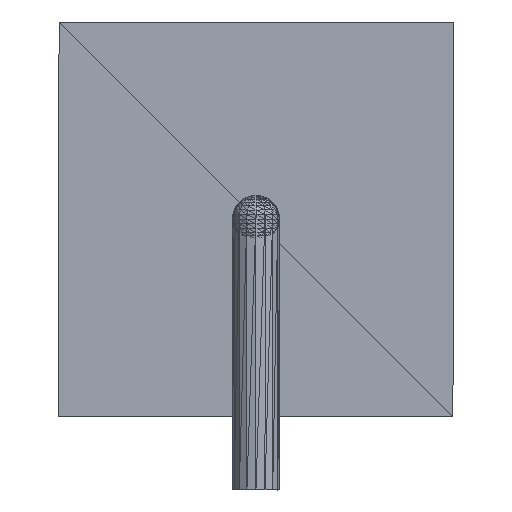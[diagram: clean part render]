
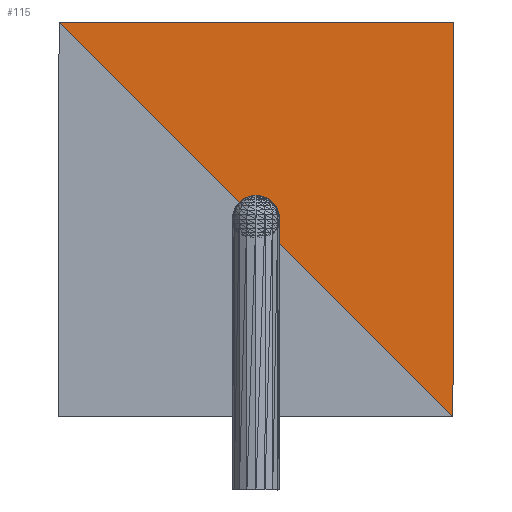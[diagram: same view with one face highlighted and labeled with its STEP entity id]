
A CAD part, left-side view. The second image highlights one B-rep face of the part: STEP entity #115.
In plain terms, the highlighted planar face has unit normal (-1, 0, 0).
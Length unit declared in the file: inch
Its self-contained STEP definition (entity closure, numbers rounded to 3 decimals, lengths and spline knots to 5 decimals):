
#66=CARTESIAN_POINT('',(-1.4375,-0.2501,0.49995));
#67=VERTEX_POINT('',#66);
#68=CARTESIAN_POINT('',(-1.4375,0.2499,0.50005));
#69=VERTEX_POINT('',#68);
#70=CARTESIAN_POINT('',(-1.4375,-0.2501,0.49995));
#71=DIRECTION('',(0.,1.,0.));
#72=VECTOR('',#71,0.5);
#73=LINE('',#70,#72);
#74=EDGE_CURVE('',#67,#69,#73,.T.);
#93=CARTESIAN_POINT('',(-1.4375,0.2499,0.50005));
#94=DIRECTION('',(1.,0.,0.));
#95=DIRECTION('',(0.,1.,0.));
#96=AXIS2_PLACEMENT_3D('',#93,#94,#95);
#97=PLANE('',#96);
#98=CARTESIAN_POINT('',(-1.4375,-0.25,-0.00005));
#99=VERTEX_POINT('',#98);
#100=CARTESIAN_POINT('',(-1.4375,-0.25,-0.00005));
#101=DIRECTION('',(0.,0.707,0.707));
#102=VECTOR('',#101,0.70711);
#103=LINE('',#100,#102);
#104=EDGE_CURVE('',#99,#69,#103,.T.);
#105=ORIENTED_EDGE('',*,*,#104,.F.);
#106=CARTESIAN_POINT('',(-1.4375,-0.25,-0.00005));
#107=DIRECTION('',(0.,0.,1.));
#108=VECTOR('',#107,0.5);
#109=LINE('',#106,#108);
#110=EDGE_CURVE('',#99,#67,#109,.T.);
#111=ORIENTED_EDGE('',*,*,#110,.T.);
#112=ORIENTED_EDGE('',*,*,#74,.T.);
#113=EDGE_LOOP('',(#105,#111,#112));
#114=FACE_BOUND('',#113,.T.);
#115=ADVANCED_FACE('',(#114),#97,.F.);
